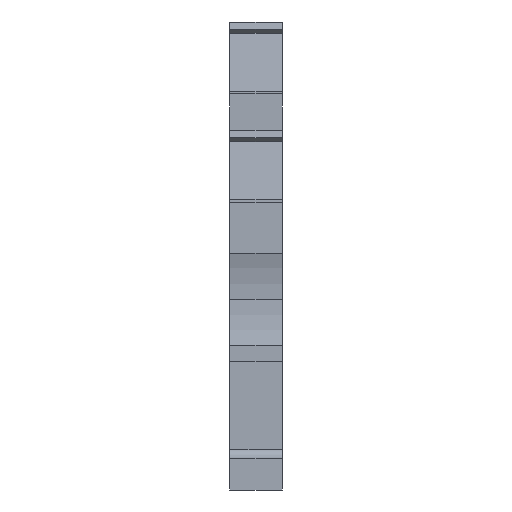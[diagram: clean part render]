
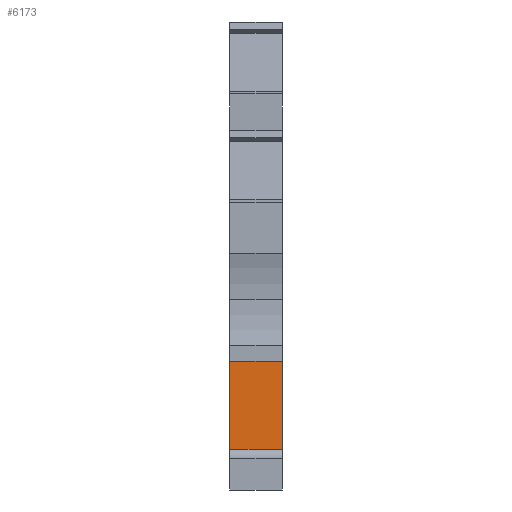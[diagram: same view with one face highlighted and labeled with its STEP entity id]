
A CAD part, front view. The second image highlights one B-rep face of the part: STEP entity #6173.
In plain terms, the highlighted planar face has unit normal (0, -1, 0).
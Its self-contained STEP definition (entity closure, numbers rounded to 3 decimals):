
#109=CARTESIAN_POINT('',(0.,3.6,4.));
#110=VERTEX_POINT('',#109);
#117=CARTESIAN_POINT('',(0.,3.6,12.6));
#118=VERTEX_POINT('',#117);
#119=CARTESIAN_POINT('',(0.,3.6,4.));
#120=DIRECTION('',(0.,0.,1.));
#121=VECTOR('',#120,8.6);
#122=LINE('',#119,#121);
#123=EDGE_CURVE('',#110,#118,#122,.T.);
#1846=CARTESIAN_POINT('',(1.,3.6,4.));
#1847=VERTEX_POINT('',#1846);
#1854=CARTESIAN_POINT('',(1.,3.6,4.));
#1855=DIRECTION('',(-1.,0.,0.));
#1856=VECTOR('',#1855,1.);
#1857=LINE('',#1854,#1856);
#1858=EDGE_CURVE('',#1847,#110,#1857,.T.);
#1869=CARTESIAN_POINT('',(1.,3.6,1.5));
#1870=VERTEX_POINT('',#1869);
#1871=CARTESIAN_POINT('',(1.,3.6,1.5));
#1872=DIRECTION('',(-0.,0.,1.));
#1873=VECTOR('',#1872,2.5);
#1874=LINE('',#1871,#1873);
#1875=EDGE_CURVE('',#1870,#1847,#1874,.T.);
#2582=CARTESIAN_POINT('',(5.15,3.6,12.6));
#2583=VERTEX_POINT('',#2582);
#2590=CARTESIAN_POINT('',(5.15,3.6,1.5));
#2591=VERTEX_POINT('',#2590);
#2592=CARTESIAN_POINT('',(5.15,3.6,1.5));
#2593=DIRECTION('',(0.,0.,1.));
#2594=VECTOR('',#2593,11.1);
#2595=LINE('',#2592,#2594);
#2596=EDGE_CURVE('',#2591,#2583,#2595,.T.);
#6146=CARTESIAN_POINT('',(5.15,3.6,1.5));
#6147=DIRECTION('',(-1.,0.,0.));
#6148=VECTOR('',#6147,4.15);
#6149=LINE('',#6146,#6148);
#6150=EDGE_CURVE('',#2591,#1870,#6149,.T.);
#6155=CARTESIAN_POINT('',(5.15,3.6,2.5));
#6156=DIRECTION('',(0.,1.,-0.));
#6157=DIRECTION('',(0.,-0.,-1.));
#6158=AXIS2_PLACEMENT_3D('',#6155,#6156,#6157);
#6159=PLANE('',#6158);
#6160=CARTESIAN_POINT('',(5.15,3.6,12.6));
#6161=DIRECTION('',(-1.,0.,0.));
#6162=VECTOR('',#6161,5.15);
#6163=LINE('',#6160,#6162);
#6164=EDGE_CURVE('',#2583,#118,#6163,.T.);
#6165=ORIENTED_EDGE('',*,*,#6164,.T.);
#6166=ORIENTED_EDGE('',*,*,#123,.F.);
#6167=ORIENTED_EDGE('',*,*,#1858,.F.);
#6168=ORIENTED_EDGE('',*,*,#1875,.F.);
#6169=ORIENTED_EDGE('',*,*,#6150,.F.);
#6170=ORIENTED_EDGE('',*,*,#2596,.T.);
#6171=EDGE_LOOP('',(#6165,#6166,#6167,#6168,#6169,#6170));
#6172=FACE_BOUND('',#6171,.T.);
#6173=ADVANCED_FACE('',(#6172),#6159,.F.);
